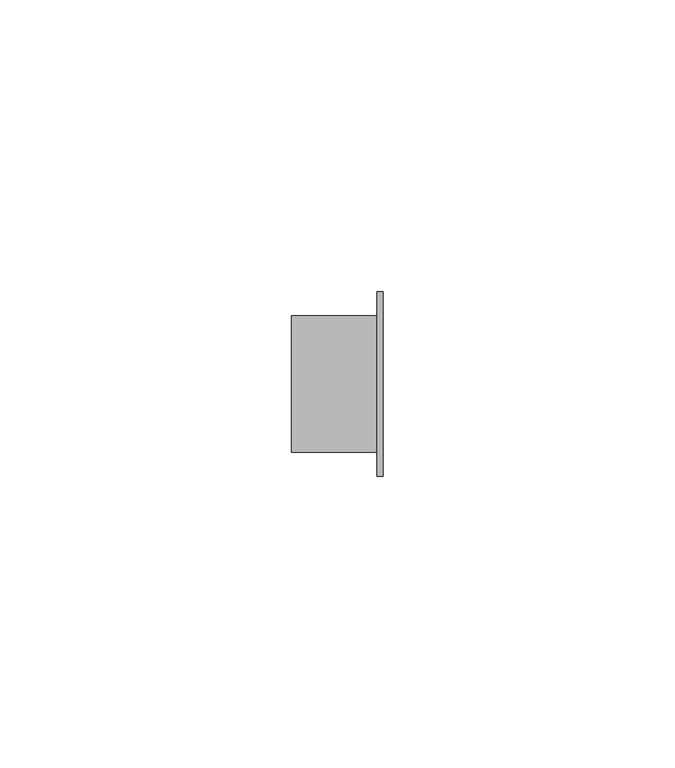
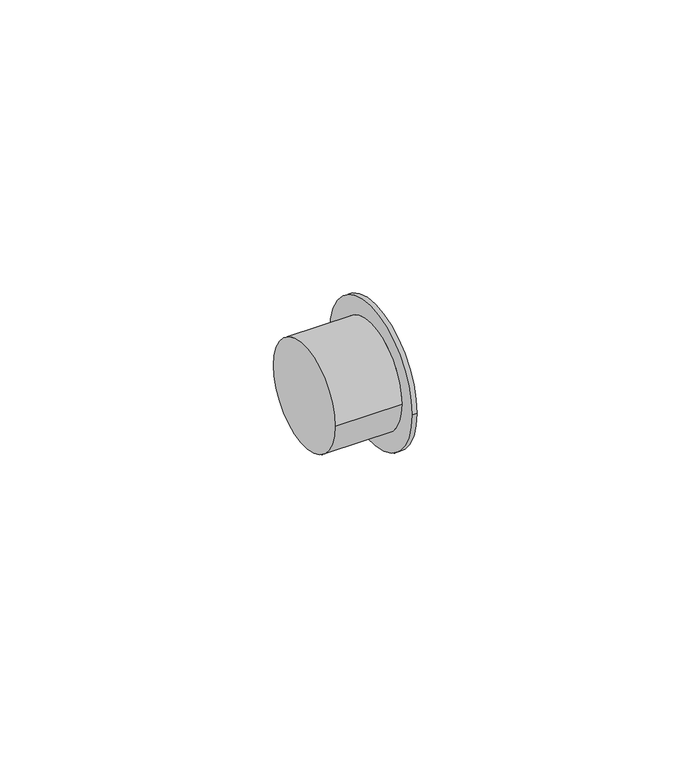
"""IFC4 building model written with IfcOpenShell, lengths in millimetres: pipe fitting geometry, Bucha de redução reta - Soldada - CU : Padrão."""

from ifc_helpers import new_model, si_unit, frame, origin, place, context, project, spatial, circle_curve, source, transform, mapped, element, save
from ifc_brep_helpers import plane_surface, cylinder_surface, advanced_brep


def pipe_fitting_1c393463(model_context):
    return source(origin(), model_context, "Body", "AdvancedBrep", [
        advanced_brep(
        [(0.0, -11.7322, 0.0), (0.0, 11.7322, 0.0), (14.6434, -11.7322, 0.0), (14.6434, 11.7322, 0.0), (15.6434, -15.775, 0.0), (15.6434, 15.775, 0.0), (14.6434, 15.775, 0.0), (14.6434, -15.775, 0.0)],
        [
            (0, 1, circle_curve(frame((0.0, 0.0, 0.0), z_axis=(-1.0, 0.0, 0.0), x_axis=(0.0, 1.0, 0.0)), 11.7322)),
            (1, 0, circle_curve(frame((0.0, 0.0, 0.0), z_axis=(-1.0, 0.0, 0.0), x_axis=(0.0, 1.0, 0.0)), 11.7322)),
            (0, 2),
            (2, 3, circle_curve(frame((14.6434, 0.0, 0.0), z_axis=(-1.0, 0.0, 0.0), x_axis=(0.0, 1.0, 0.0)), 11.7322)),
            (3, 1),
            (3, 2, circle_curve(frame((14.6434, 0.0, 0.0), z_axis=(-1.0, 0.0, 0.0), x_axis=(0.0, 1.0, 0.0)), 11.7322)),
            (4, 5, circle_curve(frame((15.6434, 0.0, 0.0), z_axis=(1.0, 0.0, 0.0), x_axis=(0.0, 1.0, 0.0)), 15.775)),
            (5, 4, circle_curve(frame((15.6434, 0.0, 0.0), z_axis=(1.0, 0.0, 0.0), x_axis=(0.0, 1.0, 0.0)), 15.775)),
            (6, 7, circle_curve(frame((14.6434, 0.0, 0.0), z_axis=(1.0, 0.0, 0.0), x_axis=(0.0, 1.0, 0.0)), 15.775)),
            (7, 4),
            (5, 6),
            (7, 6, circle_curve(frame((14.6434, 0.0, 0.0), z_axis=(1.0, 0.0, 0.0), x_axis=(0.0, 1.0, 0.0)), 15.775)),
        ],
        [
            plane_surface(frame((0.0, 0.0, 0.0), z_axis=(-1.0, 0.0, 0.0), x_axis=(0.0, 0.0, 1.0))),
            cylinder_surface(frame((0.0, 0.0, 0.0), z_axis=(-1.0, 0.0, 0.0), x_axis=(0.0, 1.0, 0.0)), 11.7322),
            plane_surface(frame((15.6434, 0.0, 0.0), z_axis=(1.0, 0.0, 0.0), x_axis=(0.0, 0.0, 1.0))),
            cylinder_surface(frame((14.6434, 0.0, 0.0), z_axis=(-1.0, 0.0, 0.0), x_axis=(0.0, 1.0, 0.0)), 15.775),
            plane_surface(frame((14.6434, 0.0, 0.0), z_axis=(-1.0, 0.0, 0.0), x_axis=(0.0, 0.0, 1.0))),
        ],
        [
            (0, [[1, 2]]),
            (1, [[-1, 3, 4, 5]]),
            (1, [[-2, -5, 6, -3]]),
            (2, [[7, 8]]),
            (3, [[9, 10, -8, 11]]),
            (3, [[12, -11, -7, -10]]),
            (4, [[-9, -12], [-4, -6]]),
        ],
    ),
    ])


if __name__ == "__main__":
    model = new_model("IFC4")
    model_context = context("Model", 3, world=origin())
    ifc_project = project(units=[si_unit("LENGTHUNIT", "METRE", prefix="MILLI")], contexts=[model_context])
    site = spatial("IfcSite", under=ifc_project)
    building = spatial("IfcBuilding", under=site)
    placement = place(None, origin())
    pipe_fitting_shape = pipe_fitting_1c393463(model_context)
    element("IfcPipeFitting", 1, ObjectType="Bucha de redução reta - Soldada - CU : Padrão", at=placement, inside=building, context=model_context, shape_type="MappedRepresentation", body=[
        mapped(pipe_fitting_shape, transform((0.0, 0.0, 0.0), x_axis=(1.0, 0.0, 0.0), y_axis=(0.0, 1.0, 0.0), z_axis=(0.0, 0.0, 1.0))),
    ])
    save(model, "model.ifc")
